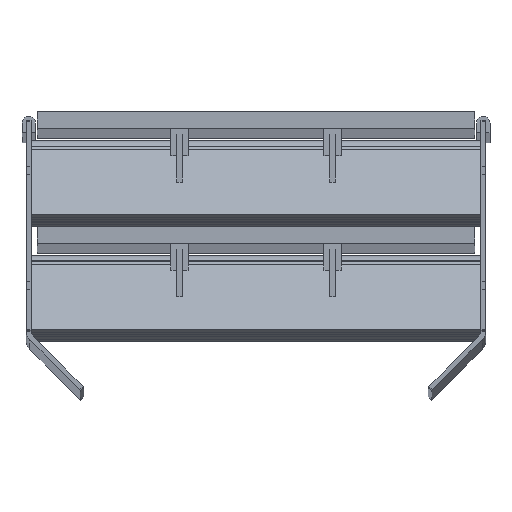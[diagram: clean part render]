
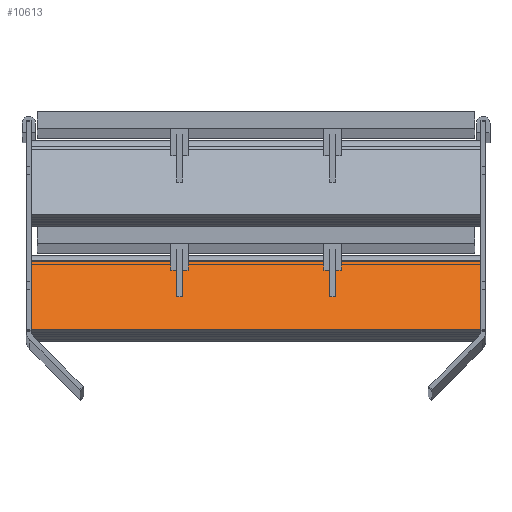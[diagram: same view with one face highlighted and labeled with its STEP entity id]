
A CAD part, top view. The second image highlights one B-rep face of the part: STEP entity #10613.
In plain terms, the highlighted planar face has unit normal (0, 0.5, 0.866).
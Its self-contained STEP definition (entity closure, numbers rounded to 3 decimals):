
#475 = LINE ( 'NONE', #33622, #20683 ) ;
#1186 = LINE ( 'NONE', #17244, #43038 ) ;
#2217 = VERTEX_POINT ( 'NONE', #38303 ) ;
#4413 = VERTEX_POINT ( 'NONE', #19993 ) ;
#10613 = ADVANCED_FACE ( 'NONE', ( #42460 ), #21831, .F. ) ;
#11356 = VERTEX_POINT ( 'NONE', #39787 ) ;
#14511 = DIRECTION ( 'NONE',  ( 0., -0.866, 0.5 ) ) ;
#15611 = DIRECTION ( 'NONE',  ( -1., 0., 0. ) ) ;
#16534 = DIRECTION ( 'NONE',  ( -1., 0., 0. ) ) ;
#16663 = ORIENTED_EDGE ( 'NONE', *, *, #49351, .F. ) ;
#17244 = CARTESIAN_POINT ( 'NONE',  ( 117.5, -113.584, 2923.972 ) ) ;
#17501 = AXIS2_PLACEMENT_3D ( 'NONE', #35095, #34820, #14511 ) ;
#19993 = CARTESIAN_POINT ( 'NONE',  ( 117.5, -78.25, 2903.572 ) ) ;
#20683 = VECTOR ( 'NONE', #16534, 1000. ) ;
#21418 = ORIENTED_EDGE ( 'NONE', *, *, #30826, .T. ) ;
#21831 = PLANE ( 'NONE',  #17501 ) ;
#25341 = ORIENTED_EDGE ( 'NONE', *, *, #47451, .F. ) ;
#27619 = EDGE_LOOP ( 'NONE', ( #33538, #21418, #16663, #25341 ) ) ;
#28016 = DIRECTION ( 'NONE',  ( 0., -0.866, 0.5 ) ) ;
#28622 = VECTOR ( 'NONE', #28016, 1000. ) ;
#30826 = EDGE_CURVE ( 'NONE', #2217, #11356, #48921, .T. ) ;
#33538 = ORIENTED_EDGE ( 'NONE', *, *, #37204, .T. ) ;
#33622 = CARTESIAN_POINT ( 'NONE',  ( 117.5, -113.584, 2923.972 ) ) ;
#34820 = DIRECTION ( 'NONE',  ( 0., -0.5, -0.866 ) ) ;
#35095 = CARTESIAN_POINT ( 'NONE',  ( 117.5, -113.584, 2923.972 ) ) ;
#37204 = EDGE_CURVE ( 'NONE', #4413, #2217, #48468, .T. ) ;
#38303 = CARTESIAN_POINT ( 'NONE',  ( -117.5, -78.25, 2903.572 ) ) ;
#38852 = VERTEX_POINT ( 'NONE', #50263 ) ;
#39787 = CARTESIAN_POINT ( 'NONE',  ( -117.5, -113.584, 2923.972 ) ) ;
#42460 = FACE_OUTER_BOUND ( 'NONE', #27619, .T. ) ;
#43038 = VECTOR ( 'NONE', #50372, 1000. ) ;
#45641 = CARTESIAN_POINT ( 'NONE',  ( -117.5, -113.584, 2923.972 ) ) ;
#47451 = EDGE_CURVE ( 'NONE', #4413, #38852, #1186, .T. ) ;
#48468 = LINE ( 'NONE', #52811, #52409 ) ;
#48921 = LINE ( 'NONE', #45641, #28622 ) ;
#49351 = EDGE_CURVE ( 'NONE', #38852, #11356, #475, .T. ) ;
#50263 = CARTESIAN_POINT ( 'NONE',  ( 117.5, -113.584, 2923.972 ) ) ;
#50372 = DIRECTION ( 'NONE',  ( 0., -0.866, 0.5 ) ) ;
#52409 = VECTOR ( 'NONE', #15611, 1000. ) ;
#52811 = CARTESIAN_POINT ( 'NONE',  ( 117.5, -78.25, 2903.572 ) ) ;
